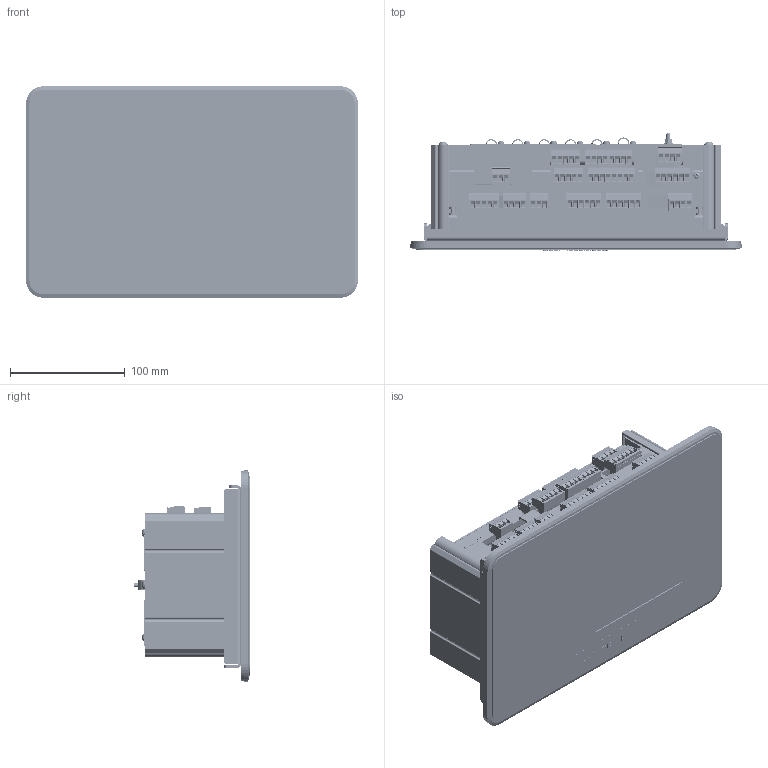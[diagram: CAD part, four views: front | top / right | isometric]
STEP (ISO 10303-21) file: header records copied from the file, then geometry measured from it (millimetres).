
FILE_DESCRIPTION((''),'2;1');
FILE_NAME('FINAL_ASSY_IND500X_PANEL_ASM','2026-02-24T13:41:42',('chen-646'),(''),'CREO PARAMETRIC BY PTC INC, 2024401','CREO PARAMETRIC BY PTC INC, 2024401','');
FILE_SCHEMA(('CONFIG_CONTROL_DESIGN'));
Products named in the file (45): D000803102_55; 123242_5; D001056220_24; D001056219_23; 182426_2; D000455194_11; D000346446_4; 72995254_2; 72234108_6; D000803105_40; D001066361_12; D001054578_15; D000936571_30; D000839632_ASM_56_ASM; D001070796_15; D000840576_14; D001070805_ASM_29_ASM; D001055023_14; D000364902_3; D001055114_21; 115097_2; 72995252_7; D000957711_76; D000956123_47; D000803125_22; D000873622_4; D001092556_3; D001024648_10; D001131062_2; D001067467_20_1; D001067467_20_2; D001067467_20_ASM; D000610218_6; D000456577_11; D000456580_9; D000456578_6; D000456587_4; D000837233_2; D000455200_2; D000837223_2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
Assembly tree (88 placements, depth 4):
  FINAL_ASSY_IND500X_PANEL_ASM
    D000833770_ASM_98_ASM
      D000803102_55
      123242_5  x6
      D001056220_24  x2
      D001056219_23  x2
      182426_2  x4
      D000455194_11
      D000346446_4
      72995254_2  x10
      72234108_6
      D000839632_ASM_56_ASM
        D000803105_40
        D001066361_12  x2
        D001054578_15
        D000936571_30  x2
      D001070805_ASM_29_ASM
        D001070796_15
        D000840576_14
        D000936571_30  x2
      D001055023_14
      D000364902_3  x7
      D001055114_21
      115097_2  x3
      72995252_7
      D000957711_76  x5
      D000956123_47
      D000803125_22
      D000873622_4
      D001092556_3
      D001024648_10
      D001131062_2
      D001067467_20_ASM
        D001067467_20_1
        D001067467_20_2
      D000610218_6
      D000456577_11
      D000456580_9
      D000456578_6
      D000456587_4
      D000837233_2
      D000455200_2  x3
      D000837223_2  x5
      D000346421_2  x3
      D000455199_2  x2
      D000346410_2
Bounding box: 289 x 101.8 x 184 mm (x, y, z)
Volume: 728270 mm3; surface area: 666694.7 mm2
Topology: 84 solids, 155 shells, 10903 faces, 29857 edges, 19730 vertices
Faces by surface type: plane 8066, cylinder 2232, extrusion 234, cone 205, torus 102, sphere 58, bspline 6
Entity records: 187834 total; most frequent: CARTESIAN_POINT 36841, ORIENTED_EDGE 31954, DIRECTION 29705, EDGE_CURVE 16042, VECTOR 12921, LINE 12687, VERTEX_POINT 10643, AXIS2_PLACEMENT_3D 8392
